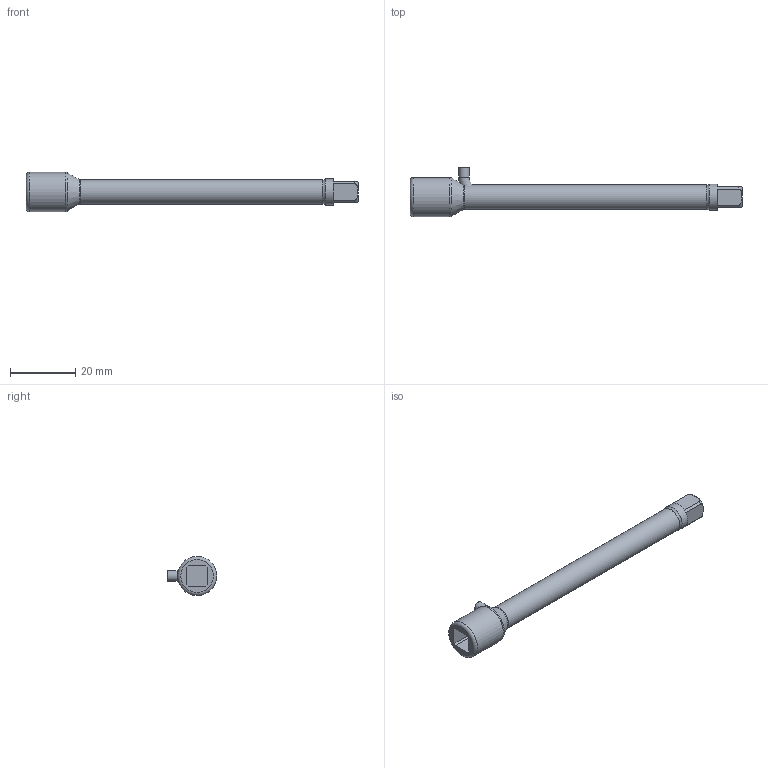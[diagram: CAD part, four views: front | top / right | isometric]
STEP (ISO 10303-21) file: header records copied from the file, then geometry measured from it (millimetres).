
FILE_DESCRIPTION(/* description */ ('Alibre Inc.'),/* implementation_level */ '2;1');
FILE_NAME(/* name */ 'export-A94B3F34-B109-417A-B22C-B80A6BCA537E',/* time_stamp */ '2023-01-17T08:30:46+01:00',/* author */ (''),/* organization */ (''),/* preprocessor_version */ 'ST-DEVELOPER v17',/* originating_system */ 'Alibre',/* authorisation */ '');
FILE_SCHEMA (('CONFIG_CONTROL_DESIGN'));
Length unit declared in the file: centimetre
Bounding box: 101.5 x 15.15 x 12 mm (x, y, z)
Volume: 10273 mm3; surface area: 9464.5 mm2
Topology: 4 solids, 4 shells, 65 faces, 151 edges, 96 vertices
Faces by surface type: plane 42, torus 11, cylinder 10, cone 2
Full cylindrical faces by diameter (mm): 3.2 x2, 7.3 x3, 7.5 x1, 8 x2, 12 x2
Entity records: 1491 total; most frequent: CARTESIAN_POINT 239, DIRECTION 142, ORIENTED_EDGE 130, AXIS2_PLACEMENT_3D 66, EDGE_CURVE 65, EDGE_LOOP 54, FACE_BOUND 54, PERSON_AND_ORGANIZATION 50
